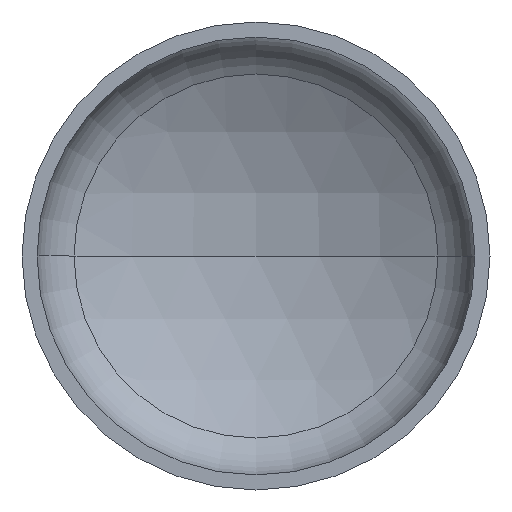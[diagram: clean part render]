
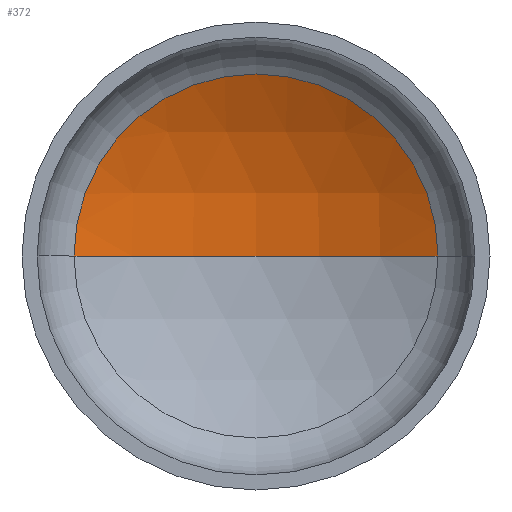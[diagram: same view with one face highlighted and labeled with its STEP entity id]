
A CAD part, front view. The second image highlights one B-rep face of the part: STEP entity #372.
In plain terms, the highlighted spherical face has radius 1120 mm.
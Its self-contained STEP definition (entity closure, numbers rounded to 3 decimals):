
#23 = AXIS2_PLACEMENT_3D ( 'NONE', #159, #175, #177 ) ;
#28 = AXIS2_PLACEMENT_3D ( 'NONE', #64, #60, #40 ) ;
#39 = AXIS2_PLACEMENT_3D ( 'NONE', #167, #87, #128 ) ;
#40 = DIRECTION ( 'NONE',  ( -1., 0., 0. ) ) ;
#60 = DIRECTION ( 'NONE',  ( 0., 0., -1. ) ) ;
#64 = CARTESIAN_POINT ( 'NONE',  ( 0., -650.838, 0. ) ) ;
#68 = ORIENTED_EDGE ( 'NONE', *, *, #99, .T. ) ;
#81 = VERTEX_POINT ( 'NONE', #327 ) ;
#87 = DIRECTION ( 'NONE',  ( 0., -1., 0. ) ) ;
#88 = AXIS2_PLACEMENT_3D ( 'NONE', #190, #95, #325 ) ;
#95 = DIRECTION ( 'NONE',  ( 0., 0., -1. ) ) ;
#99 = EDGE_CURVE ( 'NONE', #406, #81, #114, .T. ) ;
#114 = CIRCLE ( 'NONE', #39, 544.53 ) ;
#120 = EDGE_CURVE ( 'NONE', #183, #406, #336, .T. ) ;
#128 = DIRECTION ( 'NONE',  ( 1., 0., 0. ) ) ;
#155 = SPHERICAL_SURFACE ( 'NONE', #88, 1120. ) ;
#158 = EDGE_CURVE ( 'NONE', #183, #81, #266, .T. ) ;
#159 = CARTESIAN_POINT ( 'NONE',  ( 0., -650.838, 0. ) ) ;
#167 = CARTESIAN_POINT ( 'NONE',  ( 0., 327.879, 0. ) ) ;
#175 = DIRECTION ( 'NONE',  ( 0., 0., 1. ) ) ;
#177 = DIRECTION ( 'NONE',  ( 1., 0., 0. ) ) ;
#183 = VERTEX_POINT ( 'NONE', #192 ) ;
#188 = EDGE_LOOP ( 'NONE', ( #333, #386, #68 ) ) ;
#190 = CARTESIAN_POINT ( 'NONE',  ( 0., -650.838, 0. ) ) ;
#192 = CARTESIAN_POINT ( 'NONE',  ( 0., 469.162, 0. ) ) ;
#223 = CARTESIAN_POINT ( 'NONE',  ( 544.53, 327.879, 0. ) ) ;
#266 = CIRCLE ( 'NONE', #23, 1120. ) ;
#285 = FACE_OUTER_BOUND ( 'NONE', #188, .T. ) ;
#325 = DIRECTION ( 'NONE',  ( -1., 0., 0. ) ) ;
#327 = CARTESIAN_POINT ( 'NONE',  ( -544.53, 327.879, 0. ) ) ;
#333 = ORIENTED_EDGE ( 'NONE', *, *, #158, .F. ) ;
#336 = CIRCLE ( 'NONE', #28, 1120. ) ;
#372 = ADVANCED_FACE ( 'NONE', ( #285 ), #155, .F. ) ;
#386 = ORIENTED_EDGE ( 'NONE', *, *, #120, .T. ) ;
#406 = VERTEX_POINT ( 'NONE', #223 ) ;
